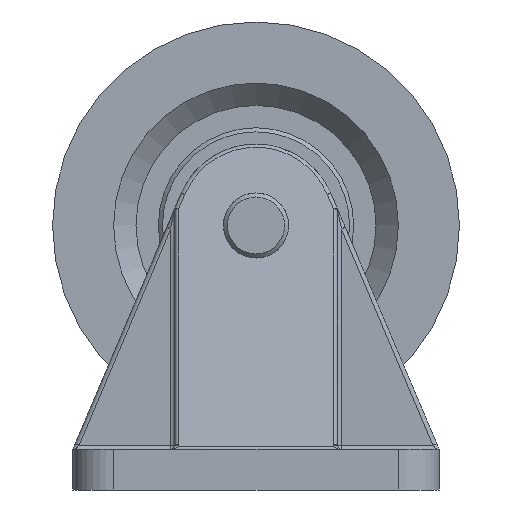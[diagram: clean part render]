
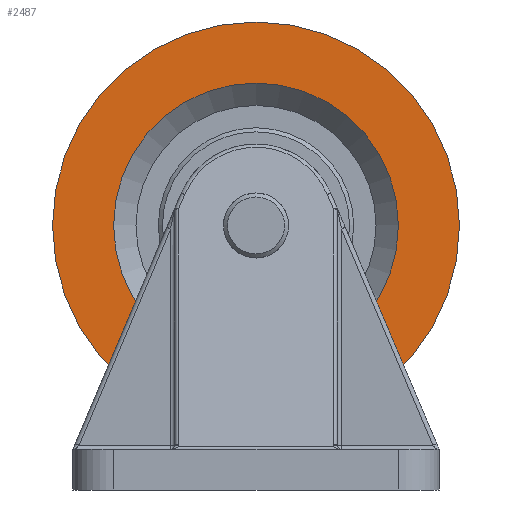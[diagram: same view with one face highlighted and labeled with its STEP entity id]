
A CAD part, left-side view. The second image highlights one B-rep face of the part: STEP entity #2487.
In plain terms, the highlighted planar face has unit normal (-1, 0, 0).
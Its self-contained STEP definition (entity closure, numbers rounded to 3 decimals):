
#100=FACE_BOUND('',#516,.T.);
#136=PLANE('',#2919);
#348=FACE_OUTER_BOUND('',#515,.T.);
#515=EDGE_LOOP('',(#2228,#2229));
#516=EDGE_LOOP('',(#2230,#2231));
#646=CIRCLE('',#2886,50.);
#647=CIRCLE('',#2887,50.);
#667=CIRCLE('',#2917,35.);
#668=CIRCLE('',#2918,35.);
#1172=VERTEX_POINT('',#5326);
#1173=VERTEX_POINT('',#5328);
#1193=VERTEX_POINT('',#5385);
#1194=VERTEX_POINT('',#5387);
#1515=EDGE_CURVE('',#1172,#1173,#646,.T.);
#1516=EDGE_CURVE('',#1173,#1172,#647,.T.);
#1543=EDGE_CURVE('',#1194,#1193,#667,.T.);
#1544=EDGE_CURVE('',#1193,#1194,#668,.T.);
#2228=ORIENTED_EDGE('',*,*,#1516,.F.);
#2229=ORIENTED_EDGE('',*,*,#1515,.F.);
#2230=ORIENTED_EDGE('',*,*,#1543,.T.);
#2231=ORIENTED_EDGE('',*,*,#1544,.T.);
#2487=ADVANCED_FACE('',(#348,#100),#136,.T.);
#2886=AXIS2_PLACEMENT_3D('',#5329,#3612,#3613);
#2887=AXIS2_PLACEMENT_3D('',#5330,#3614,#3615);
#2917=AXIS2_PLACEMENT_3D('',#5388,#3681,#3682);
#2918=AXIS2_PLACEMENT_3D('',#5389,#3683,#3684);
#2919=AXIS2_PLACEMENT_3D('',#5390,#3685,#3686);
#3612=DIRECTION('center_axis',(1.,0.,0.));
#3613=DIRECTION('ref_axis',(0.,0.,-1.));
#3614=DIRECTION('center_axis',(1.,0.,0.));
#3615=DIRECTION('ref_axis',(0.,0.,-1.));
#3681=DIRECTION('center_axis',(1.,0.,0.));
#3682=DIRECTION('ref_axis',(0.,0.,-1.));
#3683=DIRECTION('center_axis',(1.,0.,0.));
#3684=DIRECTION('ref_axis',(0.,0.,-1.));
#3685=DIRECTION('center_axis',(-1.,0.,0.));
#3686=DIRECTION('ref_axis',(0.,0.,1.));
#5326=CARTESIAN_POINT('',(-10.5,-50.,0.));
#5328=CARTESIAN_POINT('',(-10.5,50.,0.));
#5329=CARTESIAN_POINT('Origin',(-10.5,0.,0.));
#5330=CARTESIAN_POINT('Origin',(-10.5,0.,0.));
#5385=CARTESIAN_POINT('',(-10.5,-35.,0.));
#5387=CARTESIAN_POINT('',(-10.5,35.,0.));
#5388=CARTESIAN_POINT('Origin',(-10.5,0.,0.));
#5389=CARTESIAN_POINT('Origin',(-10.5,0.,0.));
#5390=CARTESIAN_POINT('Origin',(-10.5,50.,0.));
